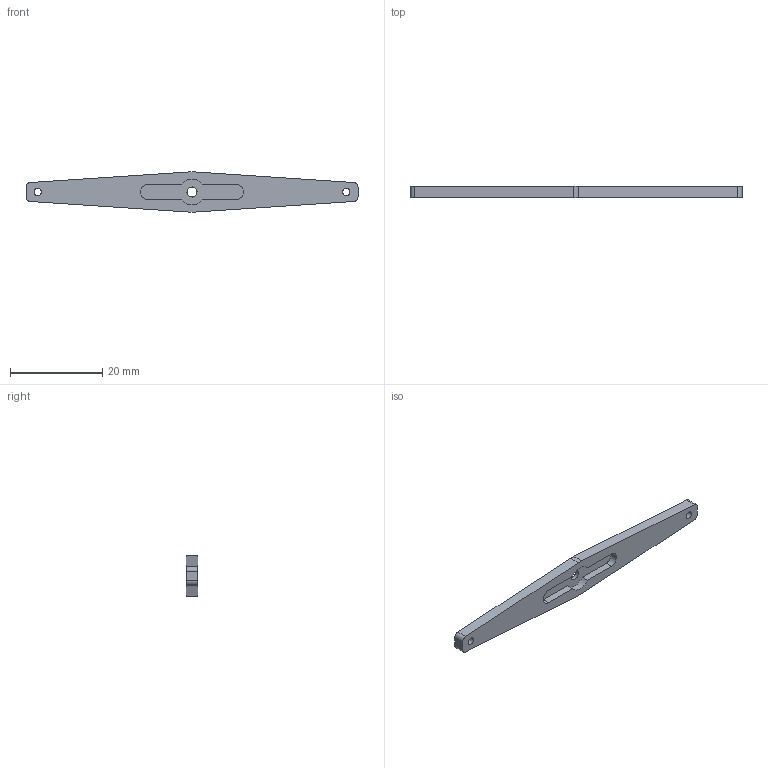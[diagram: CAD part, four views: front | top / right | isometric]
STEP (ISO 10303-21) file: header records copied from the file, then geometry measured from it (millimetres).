
FILE_DESCRIPTION(/* description */ (''),/* implementation_level */ '2;1');
FILE_NAME(/* name */ 'Rocker_HD-1370_72mm.step',/* time_stamp */ '2026-08-05T11:44:29+03:00',/* author */ (''),/* organization */ (''),/* preprocessor_version */ 'ST-DEVELOPER v20.1',/* originating_system */ 'Autodesk Translation Framework v15.8.0.0',/* authorisation */ '');
FILE_SCHEMA (('AUTOMOTIVE_DESIGN { 1 0 10303 214 3 1 1 }'));
Length unit declared in the file: millimetre
Products named in the file (2): Engine_pylon; [4145] TowerPro SG90 Mini Servo-SunRobotics_in-Pt3
Assembly tree (1 placements, depth 2):
  Engine_pylon
    [4145] TowerPro SG90 Mini Servo-SunRobotics_in-Pt3
Bounding box: 72 x 2.4 x 8.72 mm (x, y, z)
Volume: 962.9 mm3; surface area: 1374.4 mm2
Topology: 1 solids, 1 shells, 30 faces, 81 edges, 54 vertices
Faces by surface type: plane 17, cylinder 13
Full cylindrical faces by diameter (mm): 1.6 x2, 2.2 x1
Entity records: 1023 total; most frequent: DIRECTION 173, CARTESIAN_POINT 168, ORIENTED_EDGE 162, EDGE_CURVE 81, AXIS2_PLACEMENT_3D 59, LINE 55, VECTOR 55, VERTEX_POINT 54
